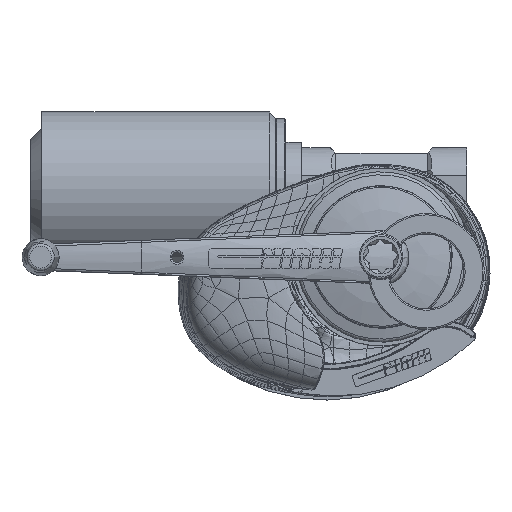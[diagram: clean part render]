
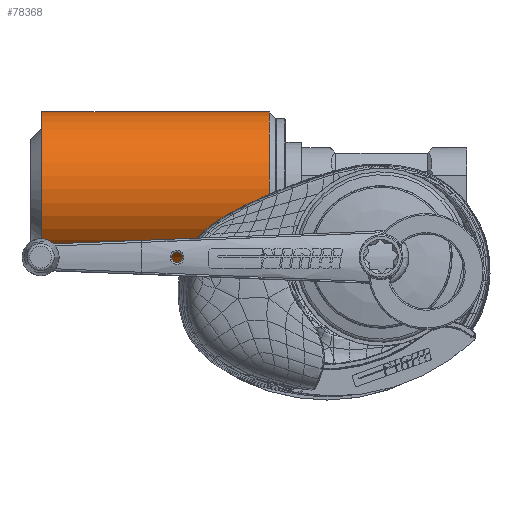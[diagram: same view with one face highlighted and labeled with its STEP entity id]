
A CAD part, top view. The second image highlights one B-rep face of the part: STEP entity #78368.
In plain terms, the highlighted cylindrical face has radius 57.25 mm (diameter 114.5 mm), a full revolution.
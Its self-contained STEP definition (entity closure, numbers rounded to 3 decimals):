
#13206=FACE_OUTER_BOUND('',#18148,.T.);
#18148=EDGE_LOOP('',(#67273,#67274,#67275,#67276,#67277));
#22192=CIRCLE('',#84888,57.25);
#22193=CIRCLE('',#84889,57.25);
#22194=CIRCLE('',#84891,57.25);
#25376=LINE('',#222282,#28689);
#28689=VECTOR('',#98884,57.25);
#34894=VERTEX_POINT('',#222274);
#34895=VERTEX_POINT('',#222276);
#34896=VERTEX_POINT('',#222280);
#45903=EDGE_CURVE('',#34894,#34895,#22192,.T.);
#45904=EDGE_CURVE('',#34895,#34894,#22193,.T.);
#45905=EDGE_CURVE('',#34896,#34896,#22194,.T.);
#45906=EDGE_CURVE('',#34896,#34895,#25376,.T.);
#67273=ORIENTED_EDGE('',*,*,#45905,.F.);
#67274=ORIENTED_EDGE('',*,*,#45906,.T.);
#67275=ORIENTED_EDGE('',*,*,#45903,.F.);
#67276=ORIENTED_EDGE('',*,*,#45904,.F.);
#67277=ORIENTED_EDGE('',*,*,#45906,.F.);
#74768=CYLINDRICAL_SURFACE('',#84890,57.25);
#78368=ADVANCED_FACE('',(#13206),#74768,.T.);
#84888=AXIS2_PLACEMENT_3D('',#222277,#98876,#98877);
#84889=AXIS2_PLACEMENT_3D('',#222278,#98878,#98879);
#84890=AXIS2_PLACEMENT_3D('',#222279,#98880,#98881);
#84891=AXIS2_PLACEMENT_3D('',#222281,#98882,#98883);
#98876=DIRECTION('center_axis',(1.,0.,0.));
#98877=DIRECTION('ref_axis',(0.,0.762,-0.648));
#98878=DIRECTION('center_axis',(1.,0.,0.));
#98879=DIRECTION('ref_axis',(0.,0.762,-0.648));
#98880=DIRECTION('center_axis',(-1.,0.,0.));
#98881=DIRECTION('ref_axis',(0.,-0.762,0.648));
#98882=DIRECTION('center_axis',(-1.,0.,0.));
#98883=DIRECTION('ref_axis',(0.,-0.762,0.648));
#98884=DIRECTION('',(1.,0.,0.));
#222274=CARTESIAN_POINT('',(4.023,63.974,-125.152));
#222276=CARTESIAN_POINT('',(4.023,151.169,-199.364));
#222277=CARTESIAN_POINT('Origin',(4.023,107.571,-162.258));
#222278=CARTESIAN_POINT('Origin',(4.023,107.571,-162.258));
#222279=CARTESIAN_POINT('Origin',(-76.727,107.571,-162.258));
#222280=CARTESIAN_POINT('',(-162.477,151.169,-199.364));
#222281=CARTESIAN_POINT('Origin',(-162.477,107.571,-162.258));
#222282=CARTESIAN_POINT('',(-76.727,151.169,-199.364));
